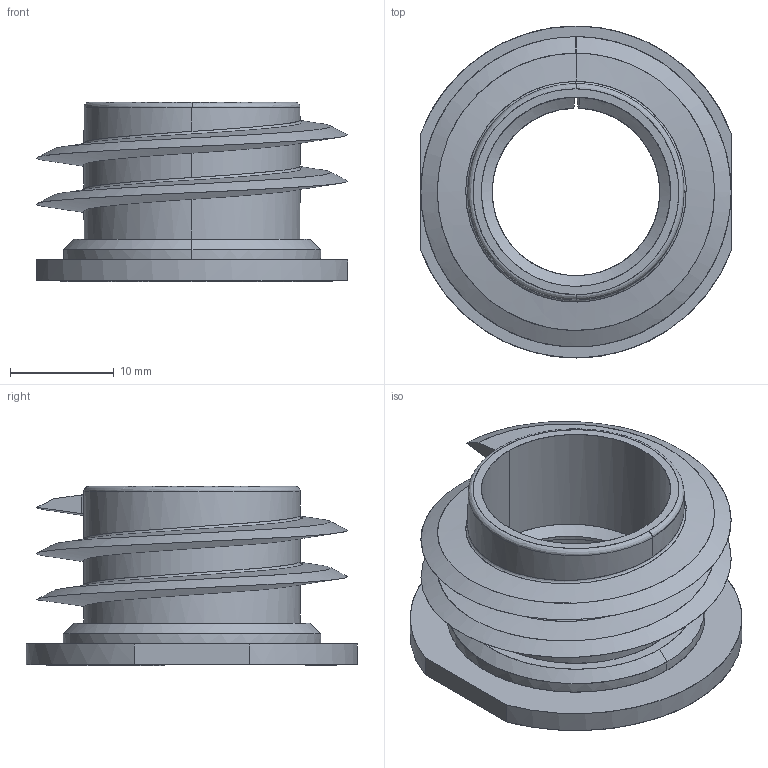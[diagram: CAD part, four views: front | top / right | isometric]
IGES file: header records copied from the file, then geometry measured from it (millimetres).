
Start section: SolidWorks IGES file using analytic representation for surfaces
Global section: file name: D:\Blender\Clients\FAS - Fastmount\FAS000 - General\Customer files\Clip Geometry\PC - Standard Range\IGES\PC-DC1.IGS; native system: SolidWorks 2018; preprocessor: SolidWorks 2018; author: Evan; date: 190211.155728; units: millimetre
Bounding box: 30 x 32 x 17.3 mm (x, y, z)
Surface area: 4541.9 mm2 (no closed solid volume)
Topology: 0 solids, 0 shells, 440 faces, 4762 edges, 4762 vertices
Faces by surface type: bspline 440
